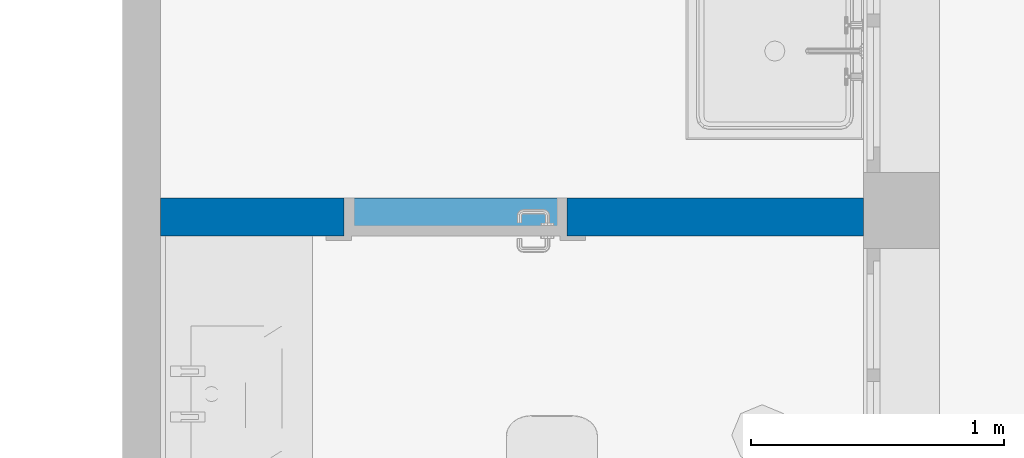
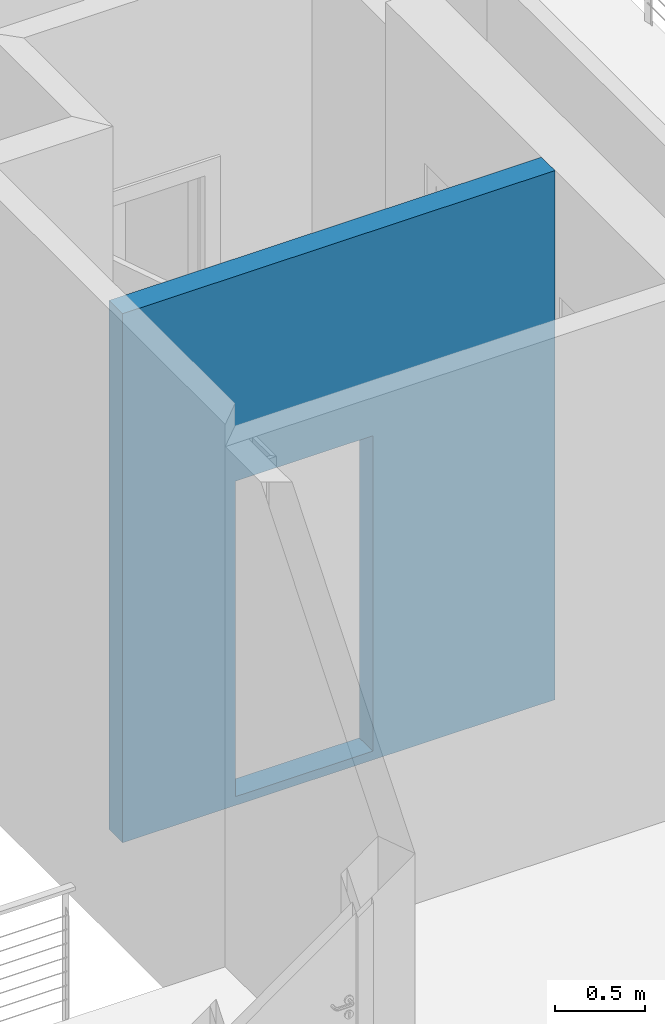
# One storey, part 7 of 26: 1 wall, 1 opening.
"""IFC2X3 building model written with IfcOpenShell, lengths in millimetres."""

from ifc_helpers import new_model, entity, si_unit, converted_unit, money_unit, direction, frame, origin_with_axes, origin_2d_with_axis, place, context, subcontext, project, spatial, polyline, rectangle, outline, extrude, material, layer, layer_set, layer_usage, type_object, element, save


model = new_model("IFC2X3")

# Units and contexts
model_context = context("Model", 3, precision=1e-05, world=origin_with_axes(), true_north=direction((0.0, 1.0)))
body_context = subcontext(model_context, "Body", "Model", "MODEL_VIEW")
ifc_project = project(units=[si_unit("LENGTHUNIT", "METRE", prefix="MILLI"), si_unit("AREAUNIT", "SQUARE_METRE"), si_unit("VOLUMEUNIT", "CUBIC_METRE"), converted_unit("PLANEANGLEUNIT", "DEGREE", entity("IfcPlaneAngleMeasure", 0.0174532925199), si_unit("PLANEANGLEUNIT", "RADIAN"), dimensions=[0, 0, 0, 0, 0, 0, 0]), si_unit("SOLIDANGLEUNIT", "STERADIAN"), money_unit("USD"), converted_unit("TIMEUNIT", "Year", entity("IfcTimeMeasure", 31556926.0), si_unit("TIMEUNIT", "SECOND"), dimensions=[0, 0, 0, 0, 0, 0, 0]), si_unit("MASSUNIT", "GRAM"), si_unit("THERMODYNAMICTEMPERATUREUNIT", "DEGREE_CELSIUS"), si_unit("LUMINOUSINTENSITYUNIT", "LUMEN")], contexts=[model_context])

# Site, building, storey
site_placement = place(None, origin_with_axes())
site = spatial("IfcSite", under=ifc_project, at=site_placement, Name="Grove Residential", CompositionType="ELEMENT")
building_placement = place(site_placement, origin_with_axes())
building = spatial("IfcBuilding", under=site, at=building_placement, Name="Building", CompositionType="ELEMENT")
storey_placement = place(building_placement, origin_with_axes())
storey = spatial("IfcBuildingStorey", under=building, at=storey_placement, Name="Ground Floor", CompositionType="ELEMENT", Elevation=0.0)

# Wall, opening
ifc_material_1 = material(Name="Wall Tiles")
ifc_layer_1 = layer(ifc_material_1, 12.5, ventilated="UNKNOWN")
ifc_material_2 = material(Name="Gypsum Plasterboard - Waterproof")
ifc_layer_2 = layer(ifc_material_2, 12.5, ventilated="UNKNOWN")
ifc_material_3 = material(Name="Air Space - Frame")
ifc_layer_3 = layer(ifc_material_3, 50.0, ventilated="UNKNOWN")
ifc_material_4 = material(Name="Insulation - Mineral Soft")
ifc_layer_4 = layer(ifc_material_4, 50.0, ventilated="UNKNOWN")
ifc_layer_5 = layer(ifc_material_2, 12.5, ventilated="UNKNOWN")
ifc_layer_6 = layer(ifc_material_1, 12.5, ventilated="UNKNOWN")
ifc_layer_set = layer_set([ifc_layer_1, ifc_layer_2, ifc_layer_3, ifc_layer_4, ifc_layer_5, ifc_layer_6], Name="IWF-003")
ifc_layer_usage = layer_usage(ifc_layer_set, "AXIS2", "POSITIVE", -150.0)
wall_type = type_object("IfcWallType", Name="IWF-003 150", PredefinedType="NOTDEFINED")
wall_placement = place(storey_placement, frame((7075.0, 5300.0, -60.0), z_axis=(0.0, 0.0, 1.0), x_axis=(1.0, 0.0, 0.0)))
wall = element("IfcWallStandardCase", 1, at=wall_placement, inside=storey, type_object=wall_type, material=ifc_layer_usage, Name="SW - 001", context=body_context, shape_type="SweptSolid", body=[
    extrude(outline(polyline([(150.0, -150.0), (2925.0, -150.0), (2925.0, 0.0), (150.0, 0.0), (150.0, -150.0)])), origin_with_axes(), (0.0, 0.0, 1.0), 3590.0),
])
opening_placement = place(wall_placement, frame((1315.0, 0.0, 60.0), z_axis=(0.0, 0.0, 1.0), x_axis=(1.0, 0.0, 0.0)))
element("IfcOpeningElement", 2, at=opening_placement, cuts=wall, Name="D.01", context=body_context, shape_type="SweptSolid", body=[
    extrude(rectangle(XDim=880.0, YDim=2140.0, at=origin_2d_with_axis()), frame((0.0, -150.0, 1070.0), z_axis=(0.0, 1.0, 0.0), x_axis=(-1.0, 0.0, 0.0)), (0.0, 0.0, 1.0), 450.0),
    extrude(rectangle(XDim=1024.0, YDim=2212.0, at=origin_2d_with_axis()), frame((0.0, -150.0, 1106.0), z_axis=(0.0, 1.0, 0.0), x_axis=(-1.0, 0.0, 0.0)), (0.0, 0.0, -1.0), 150.0),
])

save(model, "model.ifc")
